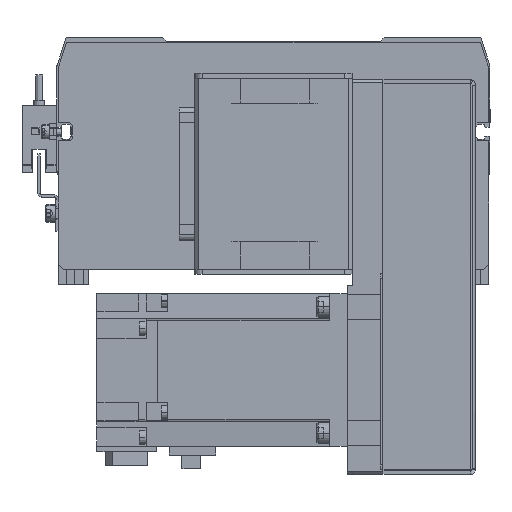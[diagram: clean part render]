
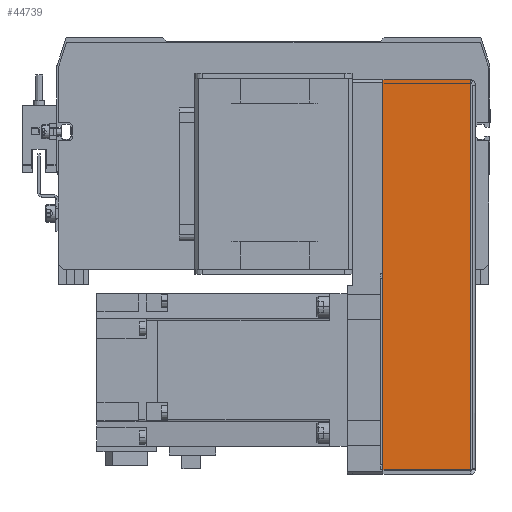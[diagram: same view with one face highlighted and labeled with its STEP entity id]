
A CAD part, front view. The second image highlights one B-rep face of the part: STEP entity #44739.
In plain terms, the highlighted planar face has unit normal (0, -1, 0).
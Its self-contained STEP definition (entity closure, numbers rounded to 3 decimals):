
#499 = CARTESIAN_POINT ( 'NONE',  ( 35., -14.163, -134.327 ) ) ;
#2996 = EDGE_CURVE ( 'NONE', #29747, #39246, #37103, .T. ) ;
#4063 = FACE_OUTER_BOUND ( 'NONE', #5164, .T. ) ;
#4091 = CARTESIAN_POINT ( 'NONE',  ( 35., -14.163, 18.873 ) ) ;
#4930 = VERTEX_POINT ( 'NONE', #4091 ) ;
#4977 = DIRECTION ( 'NONE',  ( -1., 0., 0. ) ) ;
#5134 = DIRECTION ( 'NONE',  ( 1., 0., 0. ) ) ;
#5164 = EDGE_LOOP ( 'NONE', ( #30831, #10028, #13060, #15435 ) ) ;
#8543 = VERTEX_POINT ( 'NONE', #30884 ) ;
#10028 = ORIENTED_EDGE ( 'NONE', *, *, #2996, .T. ) ;
#12054 = VECTOR ( 'NONE', #5134, 1000. ) ;
#13060 = ORIENTED_EDGE ( 'NONE', *, *, #27788, .F. ) ;
#15435 = ORIENTED_EDGE ( 'NONE', *, *, #23801, .F. ) ;
#15817 = DIRECTION ( 'NONE',  ( 0., 0., 1. ) ) ;
#18784 = CARTESIAN_POINT ( 'NONE',  ( 0., -14.163, 0. ) ) ;
#19274 = CARTESIAN_POINT ( 'NONE',  ( 0.737, -14.163, -134.327 ) ) ;
#20232 = LINE ( 'NONE', #26135, #33297 ) ;
#20604 = CARTESIAN_POINT ( 'NONE',  ( 35., -14.163, 20.673 ) ) ;
#23801 = EDGE_CURVE ( 'NONE', #8543, #4930, #44148, .T. ) ;
#25778 = PLANE ( 'NONE',  #32484 ) ;
#26135 = CARTESIAN_POINT ( 'NONE',  ( 0.737, -14.163, 20.673 ) ) ;
#26209 = CARTESIAN_POINT ( 'NONE',  ( 0.737, -14.163, 18.873 ) ) ;
#27788 = EDGE_CURVE ( 'NONE', #4930, #39246, #34168, .T. ) ;
#28868 = VECTOR ( 'NONE', #36726, 1000. ) ;
#29747 = VERTEX_POINT ( 'NONE', #19274 ) ;
#30831 = ORIENTED_EDGE ( 'NONE', *, *, #39572, .F. ) ;
#30884 = CARTESIAN_POINT ( 'NONE',  ( 0.737, -14.163, 18.873 ) ) ;
#32484 = AXIS2_PLACEMENT_3D ( 'NONE', #18784, #43156, #4977 ) ;
#33297 = VECTOR ( 'NONE', #15817, 1000. ) ;
#34168 = LINE ( 'NONE', #20604, #39659 ) ;
#34454 = DIRECTION ( 'NONE',  ( 0., 0., -1. ) ) ;
#36726 = DIRECTION ( 'NONE',  ( 1., 0., 0. ) ) ;
#37103 = LINE ( 'NONE', #43157, #12054 ) ;
#39246 = VERTEX_POINT ( 'NONE', #499 ) ;
#39572 = EDGE_CURVE ( 'NONE', #29747, #8543, #20232, .T. ) ;
#39659 = VECTOR ( 'NONE', #34454, 1000. ) ;
#43156 = DIRECTION ( 'NONE',  ( 0., 1., 0. ) ) ;
#43157 = CARTESIAN_POINT ( 'NONE',  ( 0.737, -14.163, -134.327 ) ) ;
#44148 = LINE ( 'NONE', #26209, #28868 ) ;
#44739 = ADVANCED_FACE ( 'NONE', ( #4063 ), #25778, .F. ) ;
